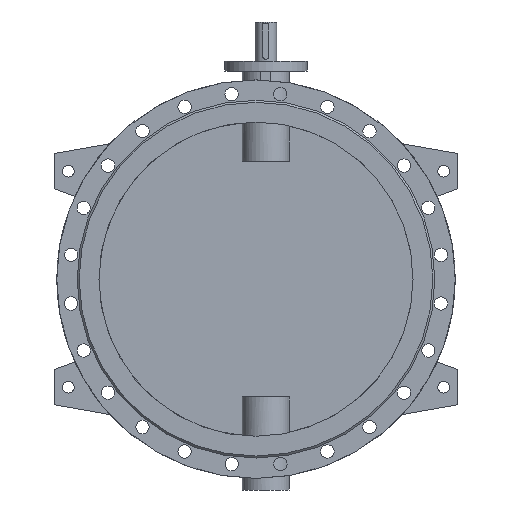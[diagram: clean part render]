
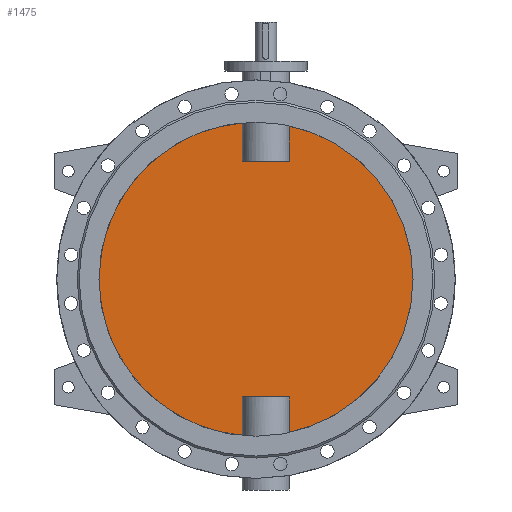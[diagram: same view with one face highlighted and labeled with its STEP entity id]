
A CAD part, front view. The second image highlights one B-rep face of the part: STEP entity #1475.
In plain terms, the highlighted planar face has unit normal (0, -1, 0).
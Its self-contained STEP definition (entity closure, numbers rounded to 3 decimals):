
#1475=ADVANCED_FACE('',(#3133),#3135,.F.);
#3133=FACE_BOUND('',#3134,.T.);
#3134=EDGE_LOOP('',(#3993,#3994,#3995,#3996,#3997,#3998,#3999,#4000));
#3135=PLANE('',#3136);
#3136=AXIS2_PLACEMENT_3D('',#3137,#3138,#3139);
#3137=CARTESIAN_POINT('',(0.,-5.,0.));
#3138=DIRECTION('',(0.,1.,0.));
#3139=DIRECTION('',(1.,0.,0.));
#3993=ORIENTED_EDGE('',*,*,#4423,.T.);
#3994=ORIENTED_EDGE('',*,*,#4439,.T.);
#3995=ORIENTED_EDGE('',*,*,#4440,.T.);
#3996=ORIENTED_EDGE('',*,*,#4441,.T.);
#3997=ORIENTED_EDGE('',*,*,#4425,.T.);
#3998=ORIENTED_EDGE('',*,*,#4442,.T.);
#3999=ORIENTED_EDGE('',*,*,#4443,.T.);
#4000=ORIENTED_EDGE('',*,*,#4444,.T.);
#4423=EDGE_CURVE('',#5119,#5120,#5121,.F.);
#4425=EDGE_CURVE('',#5124,#5122,#5125,.F.);
#4439=EDGE_CURVE('',#5120,#5151,#5152,.T.);
#4440=EDGE_CURVE('',#5151,#5153,#5154,.F.);
#4441=EDGE_CURVE('',#5153,#5124,#5155,.F.);
#4442=EDGE_CURVE('',#5122,#5156,#5157,.F.);
#4443=EDGE_CURVE('',#5156,#5158,#5159,.F.);
#4444=EDGE_CURVE('',#5158,#5119,#5160,.T.);
#5119=VERTEX_POINT('',#7393);
#5120=VERTEX_POINT('',#7394);
#5121=CIRCLE('',#7395,400.);
#5122=VERTEX_POINT('',#7399);
#5124=VERTEX_POINT('',#7506);
#5125=CIRCLE('',#7507,400.);
#5151=VERTEX_POINT('',#7903);
#5152=LINE('',#7904,#7905);
#5153=VERTEX_POINT('',#7907);
#5154=LINE('',#7908,#7909);
#5155=LINE('',#7911,#7912);
#5156=VERTEX_POINT('',#7914);
#5157=LINE('',#7915,#7916);
#5158=VERTEX_POINT('',#7918);
#5159=LINE('',#7919,#7920);
#5160=LINE('',#7922,#7923);
#7393=CARTESIAN_POINT('',(84.791,-5.,-390.91));
#7394=CARTESIAN_POINT('',(84.791,-5.,390.91));
#7395=AXIS2_PLACEMENT_3D('',#7396,#7397,#7398);
#7396=CARTESIAN_POINT('',(0.,-5.,0.));
#7397=DIRECTION('',(0.,1.,0.));
#7398=DIRECTION('',(0.212,0.,0.977));
#7399=CARTESIAN_POINT('',(-34.791,-5.,-398.484));
#7506=CARTESIAN_POINT('',(-34.791,-5.,398.484));
#7507=AXIS2_PLACEMENT_3D('',#7508,#7509,#7510);
#7508=CARTESIAN_POINT('',(0.,-5.,0.));
#7509=DIRECTION('',(0.,1.,0.));
#7510=DIRECTION('',(-0.087,0.,-0.996));
#7903=CARTESIAN_POINT('',(84.791,-5.,300.));
#7904=CARTESIAN_POINT('',(84.791,-5.,390.91));
#7905=VECTOR('',#7906,1.);
#7906=DIRECTION('',(0.,0.,-1.));
#7907=CARTESIAN_POINT('',(-34.791,-5.,300.));
#7908=CARTESIAN_POINT('',(-34.791,-5.,300.));
#7909=VECTOR('',#7910,1.);
#7910=DIRECTION('',(1.,0.,0.));
#7911=CARTESIAN_POINT('',(-34.791,-5.,398.484));
#7912=VECTOR('',#7913,1.);
#7913=DIRECTION('',(0.,0.,-1.));
#7914=CARTESIAN_POINT('',(-34.791,-5.,-300.));
#7915=CARTESIAN_POINT('',(-34.791,-5.,-300.));
#7916=VECTOR('',#7917,1.);
#7917=DIRECTION('',(0.,0.,-1.));
#7918=CARTESIAN_POINT('',(84.791,-5.,-300.));
#7919=CARTESIAN_POINT('',(84.791,-5.,-300.));
#7920=VECTOR('',#7921,1.);
#7921=DIRECTION('',(-1.,0.,0.));
#7922=CARTESIAN_POINT('',(84.791,-5.,-300.));
#7923=VECTOR('',#7924,1.);
#7924=DIRECTION('',(0.,0.,-1.));
